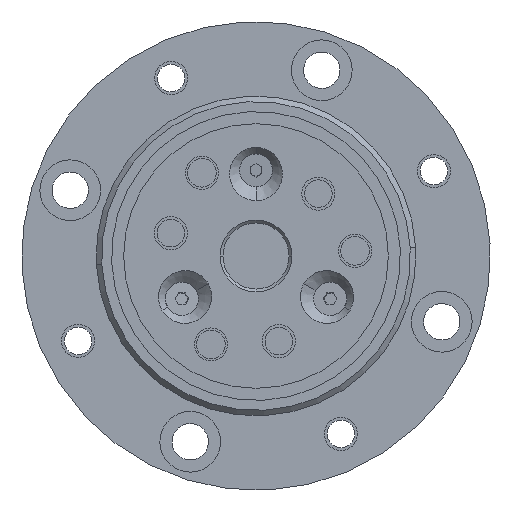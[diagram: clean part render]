
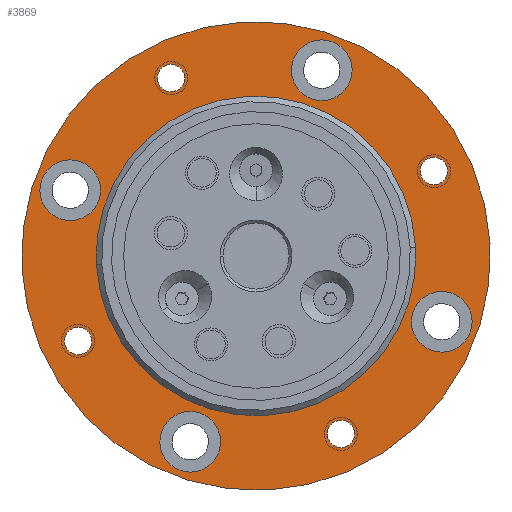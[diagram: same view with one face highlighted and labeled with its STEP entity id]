
A CAD part, front view. The second image highlights one B-rep face of the part: STEP entity #3869.
In plain terms, the highlighted planar face has unit normal (0, -1, 0).
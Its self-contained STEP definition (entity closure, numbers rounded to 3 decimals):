
#364=CARTESIAN_POINT('',(0.,5.,0.));
#365=DIRECTION('',(0.,1.,0.));
#366=DIRECTION('',(0.999,0.,0.052));
#367=AXIS2_PLACEMENT_3D('',#364,#365,#366);
#369=CARTESIAN_POINT('',(0.,5.,0.));
#370=DIRECTION('',(0.,1.,0.));
#371=DIRECTION('',(-0.999,0.,-0.052));
#372=AXIS2_PLACEMENT_3D('',#369,#370,#371);
#374=CARTESIAN_POINT('',(33.699,5.,-11.934));
#375=DIRECTION('',(0.,-1.,0.));
#376=DIRECTION('',(-0.943,0.,0.334));
#377=AXIS2_PLACEMENT_3D('',#374,#375,#376);
#379=CARTESIAN_POINT('',(33.699,5.,-11.934));
#380=DIRECTION('',(0.,-1.,0.));
#381=DIRECTION('',(0.943,0.,-0.334));
#382=AXIS2_PLACEMENT_3D('',#379,#380,#381);
#384=CARTESIAN_POINT('',(-11.934,5.,-33.699));
#385=DIRECTION('',(0.,-1.,0.));
#386=DIRECTION('',(0.334,0.,0.943));
#387=AXIS2_PLACEMENT_3D('',#384,#385,#386);
#389=CARTESIAN_POINT('',(-11.934,5.,-33.699));
#390=DIRECTION('',(0.,-1.,0.));
#391=DIRECTION('',(-0.334,0.,-0.943));
#392=AXIS2_PLACEMENT_3D('',#389,#390,#391);
#394=CARTESIAN_POINT('',(-33.699,5.,11.934));
#395=DIRECTION('',(0.,-1.,0.));
#396=DIRECTION('',(0.943,0.,-0.334));
#397=AXIS2_PLACEMENT_3D('',#394,#395,#396);
#399=CARTESIAN_POINT('',(-33.699,5.,11.934));
#400=DIRECTION('',(0.,-1.,0.));
#401=DIRECTION('',(-0.943,0.,0.334));
#402=AXIS2_PLACEMENT_3D('',#399,#400,#401);
#404=CARTESIAN_POINT('',(11.934,5.,33.699));
#405=DIRECTION('',(0.,-1.,0.));
#406=DIRECTION('',(-0.334,0.,-0.943));
#407=AXIS2_PLACEMENT_3D('',#404,#405,#406);
#409=CARTESIAN_POINT('',(11.934,5.,33.699));
#410=DIRECTION('',(0.,-1.,0.));
#411=DIRECTION('',(0.334,0.,0.943));
#412=AXIS2_PLACEMENT_3D('',#409,#410,#411);
#414=CARTESIAN_POINT('',(15.391,5.,-32.267));
#415=DIRECTION('',(0.,-1.,0.));
#416=DIRECTION('',(-0.431,0.,0.903));
#417=AXIS2_PLACEMENT_3D('',#414,#415,#416);
#419=CARTESIAN_POINT('',(15.391,5.,-32.267));
#420=DIRECTION('',(0.,-1.,0.));
#421=DIRECTION('',(0.431,0.,-0.903));
#422=AXIS2_PLACEMENT_3D('',#419,#420,#421);
#424=CARTESIAN_POINT('',(-32.267,5.,-15.391));
#425=DIRECTION('',(0.,-1.,0.));
#426=DIRECTION('',(0.903,0.,0.431));
#427=AXIS2_PLACEMENT_3D('',#424,#425,#426);
#429=CARTESIAN_POINT('',(-32.267,5.,-15.391));
#430=DIRECTION('',(0.,-1.,0.));
#431=DIRECTION('',(-0.903,0.,-0.431));
#432=AXIS2_PLACEMENT_3D('',#429,#430,#431);
#434=CARTESIAN_POINT('',(-15.391,5.,32.267));
#435=DIRECTION('',(0.,-1.,0.));
#436=DIRECTION('',(0.431,0.,-0.903));
#437=AXIS2_PLACEMENT_3D('',#434,#435,#436);
#439=CARTESIAN_POINT('',(-15.391,5.,32.267));
#440=DIRECTION('',(0.,-1.,0.));
#441=DIRECTION('',(-0.431,0.,0.903));
#442=AXIS2_PLACEMENT_3D('',#439,#440,#441);
#444=CARTESIAN_POINT('',(32.267,5.,15.391));
#445=DIRECTION('',(0.,-1.,0.));
#446=DIRECTION('',(-0.903,0.,-0.431));
#447=AXIS2_PLACEMENT_3D('',#444,#445,#446);
#449=CARTESIAN_POINT('',(32.267,5.,15.391));
#450=DIRECTION('',(0.,-1.,0.));
#451=DIRECTION('',(0.903,0.,0.431));
#452=AXIS2_PLACEMENT_3D('',#449,#450,#451);
#638=CARTESIAN_POINT('',(0.,5.,0.));
#639=DIRECTION('',(0.,1.,0.));
#640=DIRECTION('',(-0.999,0.,-0.052));
#641=AXIS2_PLACEMENT_3D('',#638,#639,#640);
#643=CARTESIAN_POINT('',(0.,5.,0.));
#644=DIRECTION('',(0.,1.,0.));
#645=DIRECTION('',(0.999,0.,0.052));
#646=AXIS2_PLACEMENT_3D('',#643,#644,#645);
#2951=CARTESIAN_POINT('',(42.442,5.,2.224));
#2952=CARTESIAN_POINT('',(-42.442,5.,-2.224));
#2953=VERTEX_POINT('',#2951);
#2954=VERTEX_POINT('',#2952);
#2955=CARTESIAN_POINT('',(28.515,5.,-10.098));
#2956=CARTESIAN_POINT('',(38.884,5.,-13.77));
#2957=VERTEX_POINT('',#2955);
#2958=VERTEX_POINT('',#2956);
#2959=CARTESIAN_POINT('',(-10.098,5.,-28.515));
#2960=CARTESIAN_POINT('',(-13.77,5.,-38.884));
#2961=VERTEX_POINT('',#2959);
#2962=VERTEX_POINT('',#2960);
#2963=CARTESIAN_POINT('',(-28.515,5.,10.098));
#2964=CARTESIAN_POINT('',(-38.884,5.,13.77));
#2965=VERTEX_POINT('',#2963);
#2966=VERTEX_POINT('',#2964);
#2967=CARTESIAN_POINT('',(10.098,5.,28.515));
#2968=CARTESIAN_POINT('',(13.77,5.,38.884));
#2969=VERTEX_POINT('',#2967);
#2970=VERTEX_POINT('',#2968);
#2971=CARTESIAN_POINT('',(14.314,5.,-30.011));
#2972=CARTESIAN_POINT('',(16.467,5.,-34.524));
#2973=VERTEX_POINT('',#2971);
#2974=VERTEX_POINT('',#2972);
#2975=CARTESIAN_POINT('',(-30.011,5.,-14.314));
#2976=CARTESIAN_POINT('',(-34.524,5.,-16.467));
#2977=VERTEX_POINT('',#2975);
#2978=VERTEX_POINT('',#2976);
#2979=CARTESIAN_POINT('',(-14.314,5.,30.011));
#2980=CARTESIAN_POINT('',(-16.467,5.,34.524));
#2981=VERTEX_POINT('',#2979);
#2982=VERTEX_POINT('',#2980);
#2983=CARTESIAN_POINT('',(30.011,5.,14.314));
#2984=CARTESIAN_POINT('',(34.524,5.,16.467));
#2985=VERTEX_POINT('',#2983);
#2986=VERTEX_POINT('',#2984);
#3455=CARTESIAN_POINT('',(-28.96,5.,-1.518));
#3456=CARTESIAN_POINT('',(28.96,5.,1.518));
#3457=VERTEX_POINT('',#3455);
#3458=VERTEX_POINT('',#3456);
#3805=CARTESIAN_POINT('',(0.,5.,0.));
#3806=DIRECTION('',(0.,1.,0.));
#3807=DIRECTION('',(0.999,0.,0.052));
#3808=AXIS2_PLACEMENT_3D('',#3805,#3806,#3807);
#3809=PLANE('',#3808);
#3810=ORIENTED_EDGE('',*,*,#3795,.T.);
#3812=ORIENTED_EDGE('',*,*,#3811,.T.);
#3813=EDGE_LOOP('',(#3810,#3812));
#3814=FACE_OUTER_BOUND('',#3813,.F.);
#3816=ORIENTED_EDGE('',*,*,#3815,.T.);
#3818=ORIENTED_EDGE('',*,*,#3817,.T.);
#3819=EDGE_LOOP('',(#3816,#3818));
#3820=FACE_BOUND('',#3819,.F.);
#3822=ORIENTED_EDGE('',*,*,#3821,.T.);
#3824=ORIENTED_EDGE('',*,*,#3823,.T.);
#3825=EDGE_LOOP('',(#3822,#3824));
#3826=FACE_BOUND('',#3825,.F.);
#3828=ORIENTED_EDGE('',*,*,#3827,.T.);
#3830=ORIENTED_EDGE('',*,*,#3829,.T.);
#3831=EDGE_LOOP('',(#3828,#3830));
#3832=FACE_BOUND('',#3831,.F.);
#3834=ORIENTED_EDGE('',*,*,#3833,.T.);
#3836=ORIENTED_EDGE('',*,*,#3835,.T.);
#3837=EDGE_LOOP('',(#3834,#3836));
#3838=FACE_BOUND('',#3837,.F.);
#3840=ORIENTED_EDGE('',*,*,#3839,.T.);
#3842=ORIENTED_EDGE('',*,*,#3841,.T.);
#3843=EDGE_LOOP('',(#3840,#3842));
#3844=FACE_BOUND('',#3843,.F.);
#3846=ORIENTED_EDGE('',*,*,#3845,.T.);
#3848=ORIENTED_EDGE('',*,*,#3847,.T.);
#3849=EDGE_LOOP('',(#3846,#3848));
#3850=FACE_BOUND('',#3849,.F.);
#3852=ORIENTED_EDGE('',*,*,#3851,.T.);
#3854=ORIENTED_EDGE('',*,*,#3853,.T.);
#3855=EDGE_LOOP('',(#3852,#3854));
#3856=FACE_BOUND('',#3855,.F.);
#3858=ORIENTED_EDGE('',*,*,#3857,.T.);
#3860=ORIENTED_EDGE('',*,*,#3859,.T.);
#3861=EDGE_LOOP('',(#3858,#3860));
#3862=FACE_BOUND('',#3861,.F.);
#3864=ORIENTED_EDGE('',*,*,#3863,.F.);
#3866=ORIENTED_EDGE('',*,*,#3865,.F.);
#3867=EDGE_LOOP('',(#3864,#3866));
#3868=FACE_BOUND('',#3867,.F.);
#368=CIRCLE('',#367,42.5);
#373=CIRCLE('',#372,42.5);
#378=CIRCLE('',#377,5.5);
#383=CIRCLE('',#382,5.5);
#388=CIRCLE('',#387,5.5);
#393=CIRCLE('',#392,5.5);
#398=CIRCLE('',#397,5.5);
#403=CIRCLE('',#402,5.5);
#408=CIRCLE('',#407,5.5);
#413=CIRCLE('',#412,5.5);
#418=CIRCLE('',#417,2.5);
#423=CIRCLE('',#422,2.5);
#428=CIRCLE('',#427,2.5);
#433=CIRCLE('',#432,2.5);
#438=CIRCLE('',#437,2.5);
#443=CIRCLE('',#442,2.5);
#448=CIRCLE('',#447,2.5);
#453=CIRCLE('',#452,2.5);
#642=CIRCLE('',#641,29.);
#647=CIRCLE('',#646,29.);
#3795=EDGE_CURVE('',#2953,#2954,#368,.T.);
#3811=EDGE_CURVE('',#2954,#2953,#373,.T.);
#3815=EDGE_CURVE('',#2957,#2958,#378,.T.);
#3817=EDGE_CURVE('',#2958,#2957,#383,.T.);
#3821=EDGE_CURVE('',#2961,#2962,#388,.T.);
#3823=EDGE_CURVE('',#2962,#2961,#393,.T.);
#3827=EDGE_CURVE('',#2965,#2966,#398,.T.);
#3829=EDGE_CURVE('',#2966,#2965,#403,.T.);
#3833=EDGE_CURVE('',#2969,#2970,#408,.T.);
#3835=EDGE_CURVE('',#2970,#2969,#413,.T.);
#3839=EDGE_CURVE('',#2973,#2974,#418,.T.);
#3841=EDGE_CURVE('',#2974,#2973,#423,.T.);
#3845=EDGE_CURVE('',#2977,#2978,#428,.T.);
#3847=EDGE_CURVE('',#2978,#2977,#433,.T.);
#3851=EDGE_CURVE('',#2981,#2982,#438,.T.);
#3853=EDGE_CURVE('',#2982,#2981,#443,.T.);
#3857=EDGE_CURVE('',#2985,#2986,#448,.T.);
#3859=EDGE_CURVE('',#2986,#2985,#453,.T.);
#3863=EDGE_CURVE('',#3457,#3458,#642,.T.);
#3865=EDGE_CURVE('',#3458,#3457,#647,.T.);
#3869=ADVANCED_FACE('',(#3814,#3820,#3826,#3832,#3838,#3844,#3850,#3856,#3862,
#3868),#3809,.F.);
